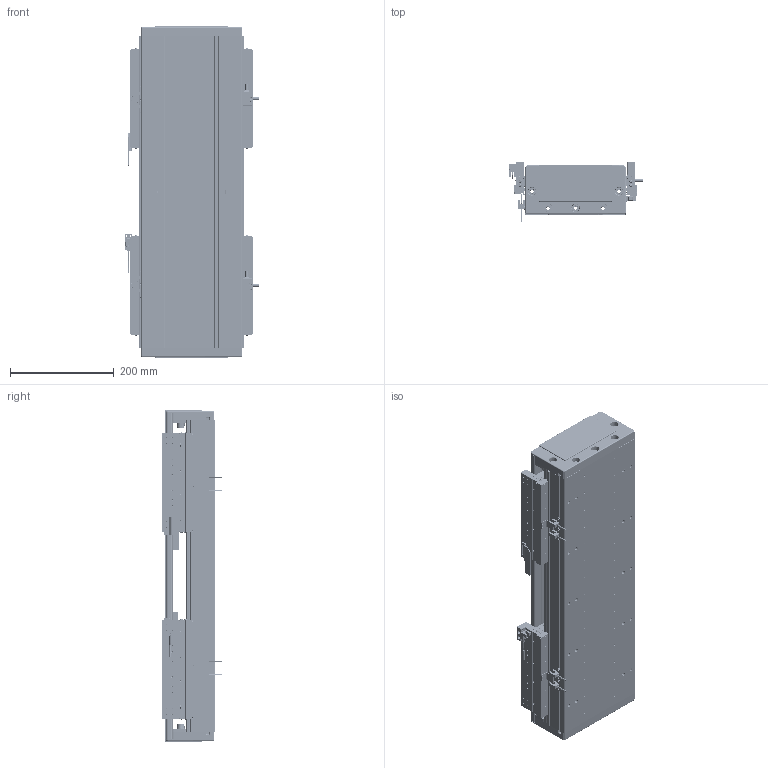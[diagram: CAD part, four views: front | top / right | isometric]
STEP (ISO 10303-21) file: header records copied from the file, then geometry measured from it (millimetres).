
FILE_DESCRIPTION (( 'STEP AP203' ), '1' );
FILE_NAME ('DA-C195-2-C2-T140-C010-0.2 眻盄萇儂.STEP', '2025-08-14T01:44:03', ( '' ), ( '' ), 'SwSTEP 2.0', 'SolidWorks 2019', '' );
FILE_SCHEMA (( 'CONFIG_CONTROL_DESIGN' ));
Products named in the file (16): DA195-DG-H-00  端盖（压铸镂空版）; CU195-C2賑輸-俋楷; DKW-GYP-ZJ-00 笢潔嫖萇覜茼え; IU-CU195-L-00 菁釱(L600); IU-CU195-L 菁釱絳寢; PM-Y65嫖萇羲壽郪璃; DKW-KGZ-ZJ-00 中间光电开关支架; DA95-HXJ-00 遣喳砎蝶; DKW168-HXJ-ZJ-00 笢潔滅袉砎蝶; DA-C195-2-C2-T140-C010-0.2 眻盄萇儂; MS200 棠掑喜S315-T240; PM-T45ㄗ侂狟ㄘ; 66156-0001-003-00 裔啣; 葩璃 DA95-GT-T-00; 66156-0001-005-00 光电感应片(默认); LMT黍杅芛
Assembly tree (28 placements, depth 3):
  DA-C195-2-C2-T140-C010-0.2 眻盄萇儂
    IU-CU195-L 菁釱絳寢
      IU-CU195-L-00 菁釱(L600)
      葩璃 DA95-GT-T-00  x4
    LMT黍杅芛  x2
    MS200 棠掑喜S315-T240
    PM-T45ㄗ侂狟ㄘ  x4
    66156-0001-005-00 光电感应片(默认)  x2
    DA195-DG-H-00  端盖（压铸镂空版）  x2
    DA95-HXJ-00 遣喳砎蝶  x4
    PM-Y65嫖萇羲壽郪璃
    66156-0001-003-00 裔啣
    DKW168-HXJ-ZJ-00 笢潔滅袉砎蝶
    DKW-GYP-ZJ-00 笢潔嫖萇覜茼え
    DKW-KGZ-ZJ-00 中间光电开关支架
    CU195-C2賑輸-俋楷  x2
Bounding box: 258.2 x 115.6 x 640 mm (x, y, z)
Volume: 6377066.7 mm3; surface area: 1724497.3 mm2
Topology: 106 solids, 242 shells, 7636 faces, 18840 edges, 11395 vertices
Faces by surface type: cylinder 2970, plane 2850, cone 946, bspline 718, torus 80, sphere 72
Entity records: 143365 total; most frequent: CARTESIAN_POINT 42624, ORIENTED_EDGE 20682, DIRECTION 20202, EDGE_CURVE 10341, AXIS2_PLACEMENT_3D 7343, VERTEX_POINT 6510, VECTOR 5516, LINE 5516
